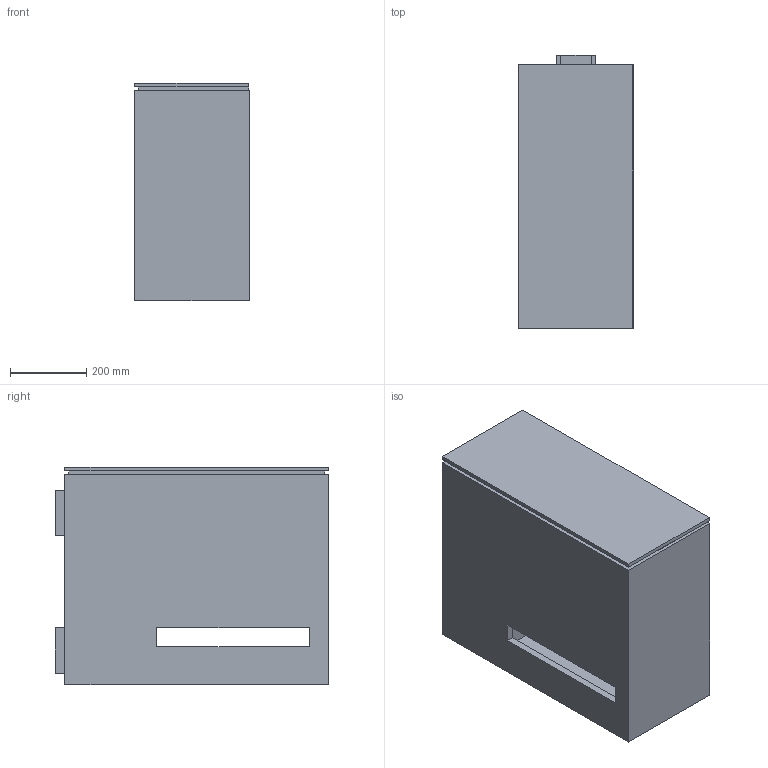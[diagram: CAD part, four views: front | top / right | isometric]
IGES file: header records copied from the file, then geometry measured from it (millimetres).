
Start section: SolidWorks IGES file using NURBS representation for surfaces
Global section: file name: G:\VICCARBE\PRODUCTOS\12-LEG-IN\04-MODELADOS (PLANOS)\SOLIDWORKS\LEG_IN 2011\ENSAMBLAJES\Mesas 3D\IGES\BUCS\VICCARBE_DOCCPUP.IGS; native system: SolidWorks 2009; preprocessor: SolidWorks 2009; author: RUBEN; date: 111024.103525; units: millimetre
Bounding box: 300 x 715 x 570 mm (x, y, z)
Surface area: 3178975.6 mm2 (no closed solid volume)
Topology: 0 solids, 0 shells, 48 faces, 328 edges, 328 vertices
Faces by surface type: bspline 48
